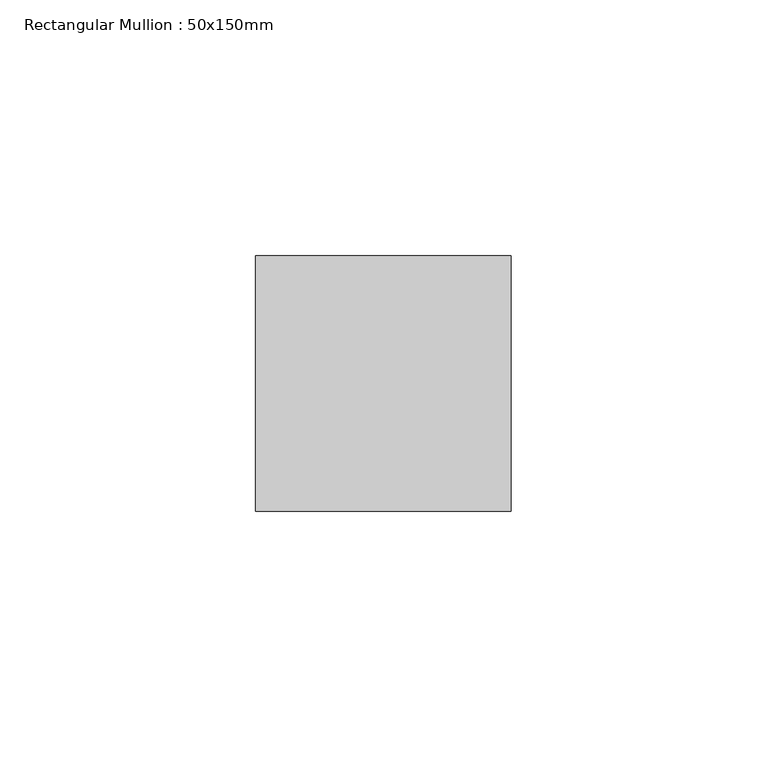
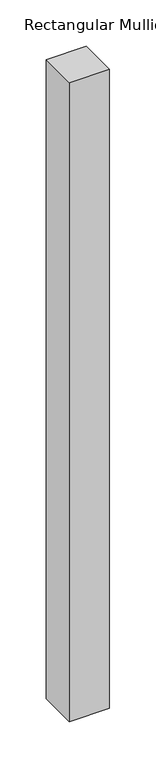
"""IFC4 building model written with IfcOpenShell, lengths in millimetres: member geometry, Rectangular Mullion : 50x150mm."""

import ifcopenshell
import ifcopenshell.guid

model = None  # the IFC model being written
_history = None  # IfcOwnerHistory: only IFC2X3 demands one
_inside = {}  # id of a spatial element -> (the spatial element, [elements in it])
_under = {}  # id of a project, library or spatial element -> (it, [spatial elements below it])
_declared = {}  # id of a project -> (the project, [libraries it declares])
_typed = {}  # id of a type object -> (the type object, [elements of that type])
_made_of = {}  # id of a material, layer set ... -> (it, [elements and type objects made of it])


def new_model(schema):
    """Start an empty IFC model of exactly this schema.

    Asked for "IFC4X3", IfcOpenShell would pick the latest addendum, in which some entities
    have other attributes; the version numbers below select the first issue.
    IFC2X3 requires an IfcOwnerHistory on every rooted entity: one is made here for all.
    """
    global model, _history
    if schema == "IFC4X3":
        model = ifcopenshell.file(schema_version=(4, 3, 0, 0))
    else:
        model = ifcopenshell.file(schema=schema)
    _inside.clear()
    _under.clear()
    _declared.clear()
    _typed.clear()
    _made_of.clear()
    _history = None
    if model.schema == "IFC2X3":
        org = make("IfcOrganization", Name="unknown")
        user = make(
            "IfcPersonAndOrganization",
            ThePerson=make("IfcPerson", FamilyName="unknown"),
            TheOrganization=org,
        )
        app = make(
            "IfcApplication",
            ApplicationDeveloper=org,
            Version="unknown",
            ApplicationFullName="unknown",
            ApplicationIdentifier="unknown",
        )
        _history = make(
            "IfcOwnerHistory",
            OwningUser=user,
            OwningApplication=app,
            ChangeAction="ADDED",
            CreationDate=0,
        )
    return model


def make(cls, **values):
    """One entity of the class cls with the attributes given. An attribute that is None is left unset."""
    return model.create_entity(
        cls, **{name: value for name, value in values.items() if value is not None}
    )


def rooted(cls, **values):
    """An entity with a GlobalId (a new one), such as an element, a storey or a relation."""
    return make(cls, GlobalId=ifcopenshell.guid.new(), OwnerHistory=_history, **values)


def si_unit(unit_type, name, prefix=None):
    """IfcSIUnit, for example si_unit("LENGTHUNIT", "METRE", prefix="MILLI")."""
    return make("IfcSIUnit", UnitType=unit_type, Prefix=prefix, Name=name)


def assignment(units):
    """IfcUnitAssignment: the units of a project."""
    return None if units is None else make("IfcUnitAssignment", Units=units)


def point(xyz):
    """IfcCartesianPoint."""
    return None if xyz is None else make("IfcCartesianPoint", Coordinates=xyz)


def direction(xyz):
    """IfcDirection."""
    return None if xyz is None else make("IfcDirection", DirectionRatios=xyz)


def frame(location, z_axis=None, x_axis=None):
    """IfcAxis2Placement3D, a coordinate frame: its origin and axes. An axis left out is left unset."""
    return make(
        "IfcAxis2Placement3D",
        Location=point(location),
        Axis=direction(z_axis),
        RefDirection=direction(x_axis),
    )


def origin():
    """The frame at (0, 0, 0) with its axes left unset."""
    return frame((0.0, 0.0, 0.0))


def place(relative_to, where):
    """IfcLocalPlacement: puts the frame where relative to a parent placement (None: the world)."""
    return make(
        "IfcLocalPlacement", PlacementRelTo=relative_to, RelativePlacement=where
    )


def context(
    kind, dimensions, precision=None, world=None, true_north=None, identifier=None
):
    """IfcGeometricRepresentationContext, for example the 3D "Model" context."""
    return make(
        "IfcGeometricRepresentationContext",
        ContextIdentifier=identifier,
        ContextType=kind,
        CoordinateSpaceDimension=dimensions,
        Precision=precision,
        WorldCoordinateSystem=world,
        TrueNorth=true_north,
    )


def project(units=None, contexts=None):
    """IfcProject with its units and contexts."""
    return rooted(
        "IfcProject",
        Name="project",
        RepresentationContexts=contexts,
        UnitsInContext=assignment(units),
    )


def spatial(cls, under=None, at=None, **own):
    """A site, building, storey or space (cls), placed at a placement, below another one or the project."""
    s = rooted(cls, ObjectPlacement=at, **own)
    if under is not None:
        _under.setdefault(under.id(), (under, []))[1].append(s)
    return s


def polyline(points):
    """IfcPolyline through the points."""
    return make("IfcPolyline", Points=[point(p) for p in points])


def outline(outer, holes=None, kind="AREA"):
    """IfcArbitraryClosedProfileDef: a profile drawn as a closed curve; with holes, ...WithVoids."""
    if holes is None:
        return make("IfcArbitraryClosedProfileDef", ProfileType=kind, OuterCurve=outer)
    return make(
        "IfcArbitraryProfileDefWithVoids",
        ProfileType=kind,
        OuterCurve=outer,
        InnerCurves=holes,
    )


def extrude(swept, where, along, depth):
    """IfcExtrudedAreaSolid: the profile swept, set in the frame where, extruded along a direction by depth."""
    return make(
        "IfcExtrudedAreaSolid",
        SweptArea=swept,
        Position=where,
        ExtrudedDirection=direction(along),
        Depth=depth,
    )


def shape(context_of_items, identifier, shape_type, items):
    """IfcShapeRepresentation: the items that make up one representation, for example the "Body"."""
    return make(
        "IfcShapeRepresentation",
        ContextOfItems=context_of_items,
        RepresentationIdentifier=identifier,
        RepresentationType=shape_type,
        Items=items,
    )


def source(mapping_origin, context_of_items, identifier, shape_type, items):
    """IfcRepresentationMap: a shape defined once, which mapped items show again and again."""
    return make(
        "IfcRepresentationMap",
        MappingOrigin=mapping_origin,
        MappedRepresentation=shape(context_of_items, identifier, shape_type, items),
    )


def transform(
    local_origin,
    x_axis=None,
    y_axis=None,
    z_axis=None,
    scale=None,
    scale2=None,
    scale3=None,
    uniform=True,
):
    """IfcCartesianTransformationOperator3D, or its non-uniform kind. x_axis, y_axis, z_axis: its Axis1, 2, 3."""
    if uniform:
        return make(
            "IfcCartesianTransformationOperator3D",
            Axis1=direction(x_axis),
            Axis2=direction(y_axis),
            LocalOrigin=point(local_origin),
            Scale=scale,
            Axis3=direction(z_axis),
        )
    return make(
        "IfcCartesianTransformationOperator3DnonUniform",
        Axis1=direction(x_axis),
        Axis2=direction(y_axis),
        LocalOrigin=point(local_origin),
        Scale=scale,
        Axis3=direction(z_axis),
        Scale2=scale2,
        Scale3=scale3,
    )


def mapped(mapping_source, mapping_target):
    """IfcMappedItem: shows the shape of a source again, moved by a transform."""
    return make(
        "IfcMappedItem", MappingSource=mapping_source, MappingTarget=mapping_target
    )


def made_of(thing, what):
    """Note that an element or type object is made of a material, layer set ...; save() writes the relation."""
    if what is not None:
        _made_of.setdefault(what.id(), (what, []))[1].append(thing)
    return thing


def element(
    cls,
    number,
    at=None,
    inside=None,
    cuts=None,
    type_object=None,
    material=None,
    context=None,
    identifier="Body",
    shape_type=None,
    held_by="IfcProductDefinitionShape",
    body=None,
    shapes=None,
    **own,
):
    """One element of the class cls, such as IfcWall. Its Tag is "e" and its number.

    at: its placement. inside: the storey or other place that contains it. cuts: it is an
    opening in that element (IfcRelVoidsElement). A single representation is given by context,
    identifier, shape_type and body (its items); several are given by shapes. held_by: the class
    of the entity that holds the representations. save() writes the other relations.
    """
    e = rooted(cls, Tag="e%d" % number, ObjectPlacement=at, **own)
    if body is not None:
        shapes = [shape(context, identifier, shape_type, body)]
    if shapes is not None:
        e.Representation = make(held_by, Representations=shapes)
    if inside is not None:
        _inside.setdefault(inside.id(), (inside, []))[1].append(e)
    if cuts is not None:
        rooted(
            "IfcRelVoidsElement", RelatingBuildingElement=cuts, RelatedOpeningElement=e
        )
    if type_object is not None:
        _typed.setdefault(type_object.id(), (type_object, []))[1].append(e)
    return made_of(e, material)


def aggregate(whole, parts):
    """IfcRelAggregates: a whole, such as a stair, and the parts it consists of."""
    return rooted("IfcRelAggregates", RelatingObject=whole, RelatedObjects=parts)


def save(model, path):
    """Write the relations noted so far, then the file.

    IfcRelAggregates (storeys below a building ...), IfcRelContainedInSpatialStructure (elements
    in a storey), IfcRelDefinesByType, IfcRelAssociatesMaterial and IfcRelDeclares: one each for
    every whole, place, type object, material and project.
    """
    for whole, parts in _under.values():
        aggregate(whole, parts)
    for where, things in _inside.values():
        rooted(
            "IfcRelContainedInSpatialStructure",
            RelatedElements=things,
            RelatingStructure=where,
        )
    for kind, things in _typed.values():
        rooted("IfcRelDefinesByType", RelatedObjects=things, RelatingType=kind)
    for what, things in _made_of.values():
        rooted("IfcRelAssociatesMaterial", RelatedObjects=things, RelatingMaterial=what)
    for by, libraries in _declared.values():
        rooted("IfcRelDeclares", RelatingContext=by, RelatedDefinitions=libraries)
    model.write(path)


def rectangular_mullion_50x150mm_8a00ccf8(model_context):
    return source(origin(), model_context, "Body", "SweptSolid", [
        extrude(outline(polyline([(25.0, 25.0), (25.0, -25.0), (-25.0, -25.0), (-25.0, 25.0), (25.0, 25.0)])), frame((0.0, 0.0, -843.3333333), z_axis=(0.0, 0.0, 1.0), x_axis=(1.0, 0.0, 0.0)), (0.0, 0.0, 1.0), 843.3333333),
    ])


if __name__ == "__main__":
    model = new_model("IFC4")
    model_context = context("Model", 3, world=origin())
    ifc_project = project(units=[si_unit("LENGTHUNIT", "METRE", prefix="MILLI")], contexts=[model_context])
    site = spatial("IfcSite", under=ifc_project)
    building = spatial("IfcBuilding", under=site)
    placement = place(None, origin())
    rectangular_mullion_50x150mm_shape = rectangular_mullion_50x150mm_8a00ccf8(model_context)
    element("IfcMember", 1, ObjectType="Rectangular Mullion : 50x150mm", at=placement, inside=building, context=model_context, shape_type="MappedRepresentation", body=[
        mapped(rectangular_mullion_50x150mm_shape, transform((0.0, 0.0, 0.0), x_axis=(1.0, 0.0, 0.0), y_axis=(0.0, 1.0, 0.0), z_axis=(0.0, 0.0, 1.0))),
    ])
    save(model, "model.ifc")
